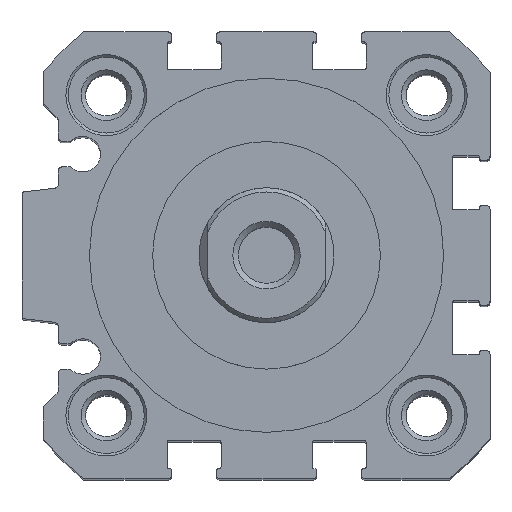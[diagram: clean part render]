
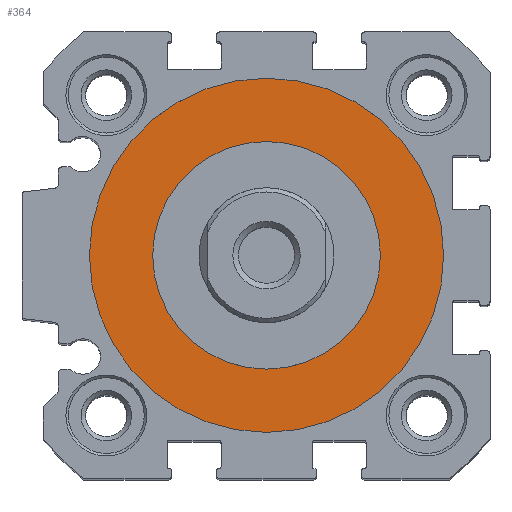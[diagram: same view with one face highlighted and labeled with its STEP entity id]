
A CAD part, top view. The second image highlights one B-rep face of the part: STEP entity #364.
In plain terms, the highlighted planar face has unit normal (0, 0, 1).
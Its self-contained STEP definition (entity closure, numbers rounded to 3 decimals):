
#364 = ADVANCED_FACE( '', ( #872, #873 ), #874, .T. );
#872 = FACE_BOUND( '', #1560, .T. );
#873 = FACE_OUTER_BOUND( '', #1561, .T. );
#874 = PLANE( '', #1562 );
#1560 = EDGE_LOOP( '', ( #2569 ) );
#1561 = EDGE_LOOP( '', ( #2570 ) );
#1562 = AXIS2_PLACEMENT_3D( '', #2571, #2572, #2573 );
#2569 = ORIENTED_EDGE( '', *, *, #4151, .F. );
#2570 = ORIENTED_EDGE( '', *, *, #4087, .T. );
#2571 = CARTESIAN_POINT( '', ( 0., 0., -1.8 ) );
#2572 = DIRECTION( '', ( 0., 0., 1. ) );
#2573 = DIRECTION( '', ( 1., 0., 0. ) );
#4087 = EDGE_CURVE( '', #4966, #4966, #4967, .T. );
#4151 = EDGE_CURVE( '', #5064, #5064, #5065, .T. );
#4966 = VERTEX_POINT( '', #6110 );
#4967 = CIRCLE( '', #6111, 21. );
#5064 = VERTEX_POINT( '', #6233 );
#5065 = CIRCLE( '', #6234, 13.5 );
#6110 = CARTESIAN_POINT( '', ( 21., 0., -1.8 ) );
#6111 = AXIS2_PLACEMENT_3D( '', #7255, #7256, #7257 );
#6233 = CARTESIAN_POINT( '', ( 13.5, 0., -1.8 ) );
#6234 = AXIS2_PLACEMENT_3D( '', #7340, #7341, #7342 );
#7255 = CARTESIAN_POINT( '', ( 0., 0., -1.8 ) );
#7256 = DIRECTION( '', ( 0., 0., 1. ) );
#7257 = DIRECTION( '', ( 1., 0., 0. ) );
#7340 = CARTESIAN_POINT( '', ( 0., 0., -1.8 ) );
#7341 = DIRECTION( '', ( 0., 0., 1. ) );
#7342 = DIRECTION( '', ( 1., 0., 0. ) );
